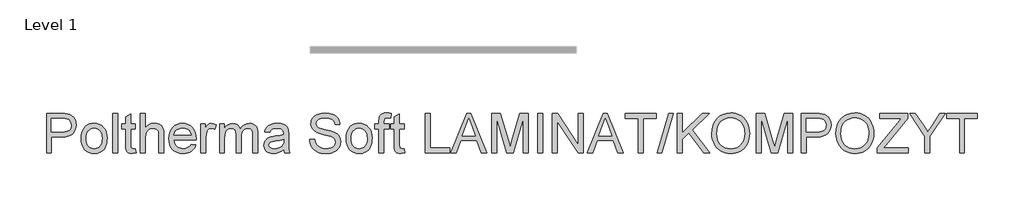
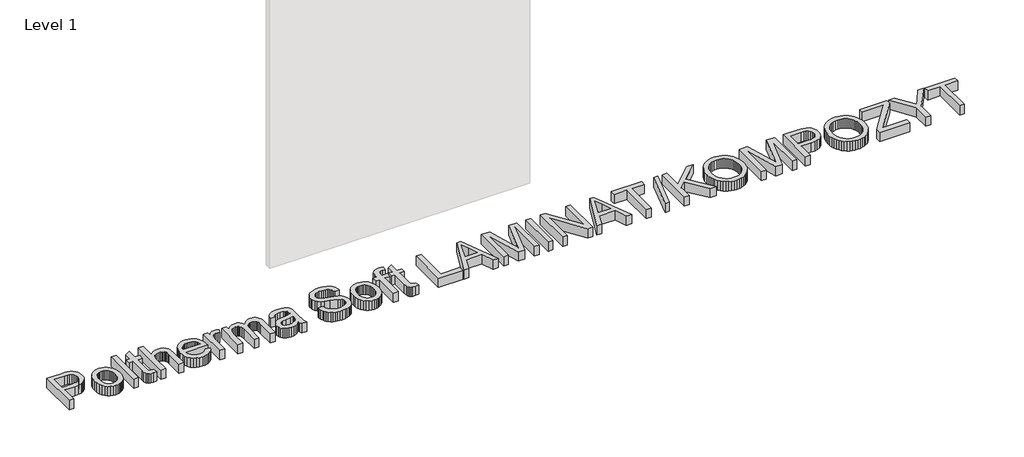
# One storey, part 5 of 27: 1 proxy.
"""IFC4 building model written with IfcOpenShell, lengths in millimetres."""

from ifc_helpers import new_model, si_unit, origin, origin_with_axes, place, context, project, spatial, polyline, outline, extrude, element, save

model = new_model("IFC4")

# Units and contexts
model_context = context("Model", 3, world=origin())
ifc_project = project(units=[si_unit("LENGTHUNIT", "METRE", prefix="MILLI")], contexts=[model_context])

# Site, building, storey
site = spatial("IfcSite", under=ifc_project)
building = spatial("IfcBuilding", under=site)
storey = spatial("IfcBuildingStorey", under=building, Name="Level 1", Elevation=0.0)

# Proxy
placement = place(None, origin())
element("IfcBuildingElementProxy", 1, Name="600mm Arial", ObjectType="600mm Arial", at=placement, inside=storey, context=model_context, shape_type="SweptSolid", body=[
    extrude(outline(polyline([(-16171.592324, -41042.952483), (-16171.592324, -40452.1832523), (-15952.6500163, -40452.1832523), (-15901.6644394, -40453.5895023), (-15864.3807856, -40457.8082523), (-15825.0238144, -40468.3190696), (-15792.6259779, -40485.4284446), (-15766.5382375, -40509.9116176), (-15746.1115548, -40542.5438292), (-15732.9144394, -40581.0354157), (-15728.5154009, -40623.0967138), (-15731.4856533, -40659.3617378), (-15740.3964106, -40692.7241176), (-15755.2476726, -40723.1838532), (-15776.0394394, -40750.7409446), (-15804.5836101, -40773.5834926), (-15842.6920836, -40789.8995984), (-15890.3648601, -40799.6892619), (-15947.6019394, -40802.952483), (-16097.7461702, -40802.952483), (-16097.7461702, -41042.952483), (-16171.592324, -41042.952483)]), holes=[polyline([(-16097.7461702, -40729.1063292), (-15943.2750163, -40729.1063292), (-15907.7581894, -40727.4116176), (-15877.7942471, -40722.327483), (-15853.3831894, -40713.8539253), (-15834.5250163, -40701.9909446), (-15820.4535019, -40687.0540455), (-15810.4024202, -40669.358733), (-15804.3717711, -40648.9050071), (-15802.3615548, -40625.6928676), (-15807.1031413, -40592.5197907), (-15821.3279009, -40564.5390215), (-15843.2690067, -40543.4813292), (-15871.1596317, -40531.077483), (-15899.6452086, -40527.2914253), (-15945.0057856, -40526.0294061), (-16097.7461702, -40526.0294061), (-16097.7461702, -40729.1063292)])]), origin_with_axes(), (0.0, 0.0, 1.0), 150.0),
    extrude(outline(polyline([(-15654.6692471, -40826.0294061), (-15650.6758577, -40769.8425071), (-15638.6956894, -40721.4260407), (-15618.7287423, -40680.7800071), (-15590.7750163, -40647.9044061), (-15562.6319875, -40626.8917859), (-15531.5682856, -40611.8827715), (-15497.5839106, -40602.8773628), (-15460.6788625, -40599.8755599), (-15419.9381774, -40603.5309085), (-15383.1007375, -40614.4969542), (-15350.1665428, -40632.773697), (-15321.1355932, -40658.3611369), (-15297.4411822, -40690.3938893), (-15280.5166029, -40728.0065696), (-15270.3618553, -40771.1991777), (-15266.9769394, -40819.9717138), (-15268.4733336, -40859.499959), (-15272.9625163, -40894.5750792), (-15280.4444875, -40925.1970744), (-15290.9192471, -40951.3659446), (-15304.256086, -40973.9696104), (-15320.3242952, -40993.8959926), (-15339.1238745, -41011.1450912), (-15360.654824, -41025.7169061), (-15384.0788024, -41037.2959325), (-15408.5574682, -41045.5666657), (-15434.0908216, -41050.5291056), (-15460.6788625, -41052.1832523), (-15502.0144995, -41048.5414253), (-15539.1944875, -41037.6159446), (-15572.2188264, -41019.4068099), (-15601.0875163, -40993.9140215), (-15624.5295235, -40961.5702715), (-15641.2738144, -40922.8082523), (-15651.3203889, -40877.6279638), (-15654.6692471, -40826.0294061)]), holes=[polyline([(-15580.8230932, -40825.8851753), (-15578.686675, -40861.7039854), (-15572.2774202, -40892.718108), (-15561.5953288, -40918.9275431), (-15546.6404009, -40940.3322907), (-15528.4492952, -40956.9593941), (-15508.0586702, -40968.8358965), (-15485.4685259, -40975.9617979), (-15460.6788625, -40978.3370984), (-15436.0154009, -40975.9482763), (-15413.5154009, -40968.7818099), (-15393.1788625, -40956.8376994), (-15375.0057856, -40940.1159446), (-15360.0508577, -40918.499358), (-15349.3687663, -40891.8707523), (-15342.9595115, -40860.2301273), (-15340.8230932, -40823.577483), (-15342.9730332, -40788.8944902), (-15349.4228529, -40758.6916657), (-15360.1725524, -40732.9690095), (-15375.2221317, -40711.7265215), (-15393.4628168, -40695.0994181), (-15413.7858336, -40683.2229157), (-15436.1911822, -40676.0970143), (-15460.6788625, -40673.7217138), (-15485.4685259, -40676.0879999), (-15508.0586702, -40683.186858), (-15528.4492952, -40695.0182883), (-15546.6404009, -40711.5822907), (-15561.5953288, -40732.9239374), (-15572.2774202, -40759.0883003), (-15578.686675, -40790.0753797), (-15580.8230932, -40825.8851753)])]), origin_with_axes(), (0.0, 0.0, 1.0), 150.0),
    extrude(outline(polyline([(-15183.9000163, -41042.952483), (-15183.9000163, -40452.1832523), (-15110.0538625, -40452.1832523), (-15110.0538625, -41042.952483), (-15183.9000163, -41042.952483)])), origin_with_axes(), (0.0, 0.0, 1.0), 150.0),
    extrude(outline(polyline([(-14842.3615548, -40981.3659446), (-14833.1307856, -41045.1159446), (-14888.3711702, -41052.1832523), (-14923.8158817, -41049.1183484), (-14950.2461702, -41039.9236369), (-14968.9240548, -41025.7529638), (-14981.1115548, -41007.7601753), (-14987.8182856, -40976.858733), (-14990.0538625, -40923.9620984), (-14990.0538625, -40682.952483), (-15045.4384779, -40682.952483), (-15045.4384779, -40609.1063292), (-14990.0538625, -40609.1063292), (-14990.0538625, -40503.6736369), (-14916.2077086, -40460.2601753), (-14916.2077086, -40609.1063292), (-14842.3615548, -40609.1063292), (-14842.3615548, -40682.952483), (-14916.2077086, -40682.952483), (-14916.2077086, -40921.7986369), (-14912.3134779, -40959.8755599), (-14899.6932856, -40973.3611369), (-14889.0382375, -40977.093108), (-14874.5250163, -40978.3370984), (-14842.3615548, -40981.3659446)])), origin_with_axes(), (0.0, 0.0, 1.0), 150.0),
    extrude(outline(polyline([(-14768.5154009, -41042.952483), (-14768.5154009, -40452.1832523), (-14694.6692471, -40452.1832523), (-14694.6692471, -40669.3947907), (-14667.5448481, -40638.9801273), (-14637.0851125, -40617.2553676), (-14603.2900404, -40604.2205119), (-14566.1596317, -40599.8755599), (-14521.5562663, -40604.6171465), (-14483.2269394, -40618.8419061), (-14453.0466509, -40641.4320503), (-14432.8904009, -40671.2697907), (-14421.5322279, -40712.2673869), (-14417.7461702, -40768.3370984), (-14417.7461702, -41042.952483), (-14491.592324, -41042.952483), (-14491.592324, -40775.9813292), (-14493.061675, -40751.0474349), (-14497.4697279, -40729.7553676), (-14504.8164827, -40712.1051273), (-14515.1019394, -40698.0967138), (-14528.0827086, -40687.4326513), (-14543.5154009, -40679.8154638), (-14561.4000163, -40675.2451513), (-14581.7365548, -40673.7217138), (-14612.9444875, -40677.8322907), (-14642.2413625, -40690.1640215), (-14666.5081894, -40709.5270023), (-14682.6259779, -40734.7313292), (-14691.6584298, -40768.2289253), (-14694.6692471, -40812.4717138), (-14694.6692471, -41042.952483), (-14768.5154009, -41042.952483)])), origin_with_axes(), (0.0, 0.0, 1.0), 150.0),
    extrude(outline(polyline([(-14012.4577086, -40913.7217138), (-13940.0538625, -40922.952483), (-13951.1551245, -40951.9518821), (-13966.1416029, -40977.5077715), (-13985.0132976, -40999.6201513), (-14007.7702086, -41018.2890215), (-14034.177961, -41033.1177474), (-14064.0021798, -41043.7096946), (-14097.2428649, -41050.0648628), (-14133.9000163, -41052.1832523), (-14179.7203288, -41048.5279037), (-14220.5466509, -41037.561858), (-14256.3789827, -41019.2851152), (-14287.217324, -40993.6976753), (-14312.0160019, -40961.5116777), (-14329.7293432, -40923.4392619), (-14340.3573481, -40879.4804277), (-14343.9000163, -40829.6351753), (-14340.3212904, -40778.0997186), (-14329.5851125, -40732.6760407), (-14311.6914827, -40693.3641417), (-14286.6404009, -40660.1640215), (-14255.8831894, -40633.7878196), (-14220.8711702, -40614.9476753), (-14181.6043432, -40603.6435888), (-14138.0827086, -40599.8755599), (-14095.9628168, -40603.6345744), (-14057.8723721, -40614.9116176), (-14023.8113745, -40633.7066898), (-13993.779824, -40660.0197907), (-13969.2651005, -40693.1477955), (-13951.7545836, -40732.3875792), (-13941.2482735, -40777.7391417), (-13937.7461702, -40829.202483), (-13938.1788625, -40849.1063292), (-14270.0538625, -40849.1063292), (-14265.7765187, -40878.5744782), (-14257.2714106, -40904.3827715), (-14244.538538, -40926.531209), (-14227.5779009, -40945.0197907), (-14207.3269995, -40959.5961128), (-14184.7233336, -40970.0077715), (-14159.7669033, -40976.2547667), (-14132.4577086, -40978.3370984), (-14093.154824, -40974.4789253), (-14060.0538625, -40962.9044061), (-14033.154824, -40942.8923869), (-14012.4577086, -40913.7217138)]), holes=[polyline([(-14270.0538625, -40775.2601753), (-14011.592324, -40775.2601753), (-14021.5803048, -40736.2457523), (-14030.17105, -40720.9032042), (-14041.1596317, -40708.3370984), (-14061.2978529, -40693.1928676), (-14084.2125163, -40682.3755599), (-14109.9036221, -40675.8851753), (-14138.3711702, -40673.7217138), (-14164.3372158, -40675.4479758), (-14188.1488144, -40680.6267619), (-14209.8059658, -40689.258072), (-14229.3086702, -40701.3419061), (-14245.6743553, -40716.31937), (-14257.920449, -40733.6315696), (-14266.0469514, -40753.2785047), (-14270.0538625, -40775.2601753)])]), origin_with_axes(), (0.0, 0.0, 1.0), 150.0),
    extrude(outline(polyline([(-13863.9000163, -41042.952483), (-13863.9000163, -40609.1063292), (-13799.2846317, -40609.1063292), (-13799.2846317, -40673.2890215), (-13775.4144394, -40636.077483), (-13753.4192471, -40614.1544061), (-13731.3519394, -40603.4452715), (-13707.2654009, -40599.8755599), (-13670.4865548, -40605.5726753), (-13633.1307856, -40622.6640215), (-13657.7942471, -40688.8659446), (-13683.7557856, -40677.5077715), (-13709.717324, -40673.7217138), (-13731.7666029, -40677.3635407), (-13751.4721317, -40688.2890215), (-13767.3916029, -40705.6688292), (-13778.0827086, -40728.6736369), (-13787.061074, -40769.9236369), (-13790.0538625, -40814.9236369), (-13790.0538625, -41042.952483), (-13863.9000163, -41042.952483)])), origin_with_axes(), (0.0, 0.0, 1.0), 150.0),
    extrude(outline(polyline([(-13586.9769394, -41042.952483), (-13586.9769394, -40609.1063292), (-13513.1307856, -40609.1063292), (-13513.1307856, -40680.5005599), (-13490.9192471, -40647.7060888), (-13462.3615548, -40622.014983), (-13428.4312663, -40605.4104157), (-13390.1019394, -40599.8755599), (-13349.0322279, -40605.5185888), (-13331.5532615, -40612.5723749), (-13316.1115548, -40622.4476753), (-13291.5202086, -40649.5450311), (-13275.4384779, -40685.6928676), (-13248.5214106, -40648.1477955), (-13217.8182856, -40621.3298869), (-13183.3291029, -40605.2391417), (-13145.0538625, -40599.8755599), (-13115.491062, -40602.1066297), (-13089.5430452, -40608.7998388), (-13067.209812, -40619.9551874), (-13048.4913625, -40635.5726753), (-13033.694187, -40655.8325912), (-13023.1247759, -40680.9152234), (-13016.7831293, -40710.820572), (-13014.6692471, -40745.5486369), (-13014.6692471, -41042.952483), (-13088.5154009, -41042.952483), (-13088.5154009, -40777.2794061), (-13090.2281413, -40740.4464734), (-13095.3663625, -40715.6207523), (-13104.9937663, -40698.6195503), (-13120.1740548, -40685.2601753), (-13139.6992952, -40676.6063292), (-13162.3615548, -40673.7217138), (-13183.288538, -40675.5696705), (-13202.3675644, -40681.1135407), (-13219.5986341, -40690.3533244), (-13234.9817471, -40703.2890215), (-13247.6334899, -40720.2992378), (-13256.670449, -40741.7625792), (-13262.0926245, -40767.6790455), (-13263.9000163, -40798.0486369), (-13263.9000163, -41042.952483), (-13337.7461702, -41042.952483), (-13337.7461702, -40769.0582523), (-13342.0190067, -40727.3034446), (-13354.8375163, -40697.5197907), (-13364.7488745, -40687.1081321), (-13377.3916029, -40679.671233), (-13392.7657014, -40675.2090936), (-13410.8711702, -40673.7217138), (-13439.3206894, -40677.6880599), (-13465.5346317, -40689.5870984), (-13487.1692471, -40709.1303676), (-13501.8807856, -40736.0294061), (-13510.3182856, -40773.3491176), (-13513.1307856, -40824.1544061), (-13513.1307856, -41042.952483), (-13586.9769394, -41042.952483)])), origin_with_axes(), (0.0, 0.0, 1.0), 150.0),
    extrude(outline(polyline([(-12626.9769394, -40987.5678676), (-12662.2593913, -41017.8202715), (-12698.5875163, -41037.6159446), (-12736.7906413, -41048.5414253), (-12777.6980932, -41052.1832523), (-12810.5782014, -41049.9927474), (-12839.4108336, -41043.421233), (-12864.1959899, -41032.468709), (-12884.9336702, -41017.1351753), (-12901.3083697, -40998.3941898), (-12913.0045836, -40977.2193099), (-12920.022312, -40953.6105359), (-12922.3615548, -40927.5678676), (-12918.8279009, -40896.9548869), (-12908.2269394, -40869.1544061), (-12891.8747759, -40845.3563292), (-12871.0875163, -40826.7505599), (-12846.6584298, -40812.6880599), (-12819.3807856, -40802.5197907), (-12755.4865548, -40791.4140215), (-12679.9817471, -40779.7313292), (-12627.4096317, -40766.0294061), (-12626.9769394, -40749.5870984), (-12632.061074, -40716.6303676), (-12638.4162423, -40704.4248388), (-12647.3134779, -40695.0678676), (-12662.6920836, -40685.7289253), (-12681.4240548, -40679.0582523), (-12728.9480932, -40673.7217138), (-12772.9384779, -40677.2733965), (-12803.6596317, -40687.9284446), (-12824.6091509, -40707.6339734), (-12839.2846317, -40738.3370984), (-12913.1307856, -40729.1063292), (-12900.3122759, -40688.7217138), (-12881.1836702, -40656.9909446), (-12853.9601125, -40632.7241176), (-12816.8567471, -40614.7313292), (-12771.4781413, -40603.5895023), (-12719.4288625, -40599.8755599), (-12669.5069875, -40603.1568099), (-12629.9336702, -40613.0005599), (-12600.0959298, -40627.8022426), (-12579.3807856, -40645.9572907), (-12565.6428048, -40668.4032042), (-12556.7365548, -40696.077483), (-12553.1307856, -40760.6928676), (-12553.1307856, -40852.5678676), (-12549.3807856, -40980.8611369), (-12543.8279009, -41012.5738773), (-12534.6692471, -41042.952483), (-12608.5154009, -41042.952483), (-12620.342324, -41017.2794061), (-12626.9769394, -40987.5678676)]), holes=[polyline([(-12626.9769394, -40839.8755599), (-12676.592324, -40852.171233), (-12746.1115548, -40862.5197907), (-12809.6452086, -40874.4909446), (-12826.1776606, -40882.6760407), (-12838.4192471, -40893.9620984), (-12845.9913625, -40907.483733), (-12848.5154009, -40922.3755599), (-12843.0166029, -40944.3346946), (-12826.5202086, -40962.327483), (-12799.3867952, -40974.3346946), (-12761.9769394, -40978.3370984), (-12722.3134779, -40973.9200311), (-12687.2654009, -40960.6688292), (-12658.8519394, -40941.1435888), (-12639.092324, -40917.9044061), (-12630.3303048, -40893.9620984), (-12627.4096317, -40860.7890215), (-12626.9769394, -40839.8755599)])]), origin_with_axes(), (0.0, 0.0, 1.0), 150.0),
    extrude(outline(polyline([(-12239.2846317, -40839.8755599), (-12165.4384779, -40839.8755599), (-12156.9649202, -40880.8551273), (-12141.6404009, -40913.7938292), (-12117.7341509, -40939.9356561), (-12083.5154009, -40960.5245984), (-12041.6884779, -40973.8839734), (-11994.9577086, -40978.3370984), (-11953.8158817, -40974.9657042), (-11917.7942471, -40964.8515215), (-11888.6055452, -40948.8419061), (-11867.9625163, -40927.7842138), (-11855.6848721, -40903.6075311), (-11851.592324, -40878.2409446), (-11854.6572279, -40853.5233965), (-11863.8519394, -40832.1592138), (-11882.529824, -40813.9320503), (-11914.0442471, -40798.6255599), (-12021.5682856, -40770.4284446), (-12092.1512182, -40751.7685888), (-12137.3134779, -40734.0101753), (-12174.0742952, -40709.1664253), (-12200.1259779, -40679.0582523), (-12215.6488144, -40644.3346946), (-12220.8230932, -40605.6447907), (-12219.2230332, -40583.6541056), (-12214.4228529, -40562.3935888), (-12206.4225524, -40541.8632402), (-12195.2221317, -40522.0630599), (-12180.9477928, -40503.7998388), (-12163.7257375, -40487.8803676), (-12143.5559658, -40474.3046465), (-12120.4384779, -40463.0726753), (-12068.4793432, -40447.9825311), (-12010.967324, -40442.952483), (-11948.6596317, -40448.2169061), (-11894.1404009, -40464.0101753), (-11870.2882375, -40475.7739974), (-11849.3567471, -40490.0077715), (-11831.3459298, -40506.7114974), (-11816.2557856, -40525.8851753), (-11804.2035019, -40546.9699109), (-11795.3062663, -40569.4068099), (-11789.5640788, -40593.1958724), (-11786.9769394, -40618.3370984), (-11860.8230932, -40618.3370984), (-11865.7629971, -40594.7733965), (-11874.3807856, -40574.2745984), (-11886.6764586, -40556.8407042), (-11902.6500163, -40542.4717138), (-11922.5989346, -40531.2397426), (-11946.8206894, -40523.2169061), (-11975.3152807, -40518.4032042), (-12008.0827086, -40516.7986369), (-12041.8958096, -40518.3851753), (-12070.7870356, -40523.1447907), (-12094.7563865, -40531.077483), (-12113.8038625, -40542.1832523), (-12128.3170836, -40555.5336128), (-12138.6836702, -40570.2000792), (-12144.9036221, -40586.1826513), (-12146.9769394, -40603.4813292), (-12141.0995356, -40631.858733), (-12123.467324, -40654.6832523), (-12107.2774202, -40664.8334926), (-12081.7846317, -40675.0919061), (-12002.8904009, -40695.9332523), (-11921.4721317, -40715.7289253), (-11872.217324, -40733.0005599), (-11830.1199682, -40759.7914253), (-11813.8444274, -40775.5396224), (-11800.7509779, -40792.8563292), (-11790.6863745, -40811.6514013), (-11783.4973721, -40831.8346946), (-11777.7461702, -40876.3659446), (-11779.4003168, -40899.4654037), (-11784.3627567, -40921.8887811), (-11792.6334899, -40943.6360768), (-11804.2125163, -40964.7072907), (-11818.8970115, -40984.2866176), (-11836.4841509, -41001.5582523), (-11856.9739346, -41016.5221946), (-11880.3663625, -41029.1784446), (-11905.9808457, -41039.2430479), (-11933.1367952, -41046.4320503), (-11992.0730932, -41052.1832523), (-12029.8480332, -41050.6327715), (-12064.4228529, -41045.9813292), (-12095.7975524, -41038.2289253), (-12123.9721317, -41027.3755599), (-12149.1178649, -41013.4032042), (-12171.4060259, -40996.2938292), (-12190.8366149, -40976.0474349), (-12207.4096317, -40952.6640215), (-12220.7599923, -40926.9008003), (-12230.5226125, -40899.514983), (-12236.6974923, -40870.5065696), (-12239.2846317, -40839.8755599)])), origin_with_axes(), (0.0, 0.0, 1.0), 150.0),
    extrude(outline(polyline([(-11694.6692471, -40826.0294061), (-11690.6758577, -40769.8425071), (-11678.6956894, -40721.4260407), (-11658.7287423, -40680.7800071), (-11630.7750163, -40647.9044061), (-11602.6319875, -40626.8917859), (-11571.5682856, -40611.8827715), (-11537.5839106, -40602.8773628), (-11500.6788625, -40599.8755599), (-11459.9381774, -40603.5309085), (-11423.1007375, -40614.4969542), (-11390.1665428, -40632.773697), (-11361.1355932, -40658.3611369), (-11337.4411822, -40690.3938893), (-11320.5166029, -40728.0065696), (-11310.3618553, -40771.1991777), (-11306.9769394, -40819.9717138), (-11308.4733336, -40859.499959), (-11312.9625163, -40894.5750792), (-11320.4444875, -40925.1970744), (-11330.9192471, -40951.3659446), (-11344.256086, -40973.9696104), (-11360.3242952, -40993.8959926), (-11379.1238745, -41011.1450912), (-11400.654824, -41025.7169061), (-11424.0788024, -41037.2959325), (-11448.5574682, -41045.5666657), (-11474.0908216, -41050.5291056), (-11500.6788625, -41052.1832523), (-11542.0144995, -41048.5414253), (-11579.1944875, -41037.6159446), (-11612.2188264, -41019.4068099), (-11641.0875163, -40993.9140215), (-11664.5295235, -40961.5702715), (-11681.2738144, -40922.8082523), (-11691.3203889, -40877.6279638), (-11694.6692471, -40826.0294061)]), holes=[polyline([(-11620.8230932, -40825.8851753), (-11618.686675, -40861.7039854), (-11612.2774202, -40892.718108), (-11601.5953288, -40918.9275431), (-11586.6404009, -40940.3322907), (-11568.4492952, -40956.9593941), (-11548.0586702, -40968.8358965), (-11525.4685259, -40975.9617979), (-11500.6788625, -40978.3370984), (-11476.0154009, -40975.9482763), (-11453.5154009, -40968.7818099), (-11433.1788625, -40956.8376994), (-11415.0057856, -40940.1159446), (-11400.0508577, -40918.499358), (-11389.3687663, -40891.8707523), (-11382.9595115, -40860.2301273), (-11380.8230932, -40823.577483), (-11382.9730332, -40788.8944902), (-11389.4228529, -40758.6916657), (-11400.1725524, -40732.9690095), (-11415.2221317, -40711.7265215), (-11433.4628168, -40695.0994181), (-11453.7858336, -40683.2229157), (-11476.1911822, -40676.0970143), (-11500.6788625, -40673.7217138), (-11525.4685259, -40676.0879999), (-11548.0586702, -40683.186858), (-11568.4492952, -40695.0182883), (-11586.6404009, -40711.5822907), (-11601.5953288, -40732.9239374), (-11612.2774202, -40759.0883003), (-11618.686675, -40790.0753797), (-11620.8230932, -40825.8851753)])]), origin_with_axes(), (0.0, 0.0, 1.0), 150.0),
    extrude(outline(polyline([(-11205.4384779, -41042.952483), (-11205.4384779, -40682.952483), (-11270.0538625, -40682.952483), (-11270.0538625, -40609.1063292), (-11205.4384779, -40609.1063292), (-11205.4384779, -40565.4044061), (-11203.4913625, -40529.2385407), (-11197.6500163, -40503.8178676), (-11182.7942471, -40479.2625792), (-11159.8615548, -40459.827483), (-11127.7702086, -40447.171233), (-11085.4384779, -40442.952483), (-11053.3831894, -40444.9717138), (-11018.0827086, -40451.0294061), (-11028.9000163, -40520.2601753), (-11071.4480932, -40516.7986369), (-11099.5190067, -40519.8635407), (-11117.9625163, -40529.0582523), (-11128.1848721, -40546.6183484), (-11131.592324, -40574.7794061), (-11131.592324, -40609.1063292), (-11048.5154009, -40609.1063292), (-11048.5154009, -40682.952483), (-11131.592324, -40682.952483), (-11131.592324, -41042.952483), (-11205.4384779, -41042.952483)])), origin_with_axes(), (0.0, 0.0, 1.0), 150.0),
    extrude(outline(polyline([(-10826.9769394, -40981.3659446), (-10817.7461702, -41045.1159446), (-10872.9865548, -41052.1832523), (-10908.4312663, -41049.1183484), (-10934.8615548, -41039.9236369), (-10953.5394394, -41025.7529638), (-10965.7269394, -41007.7601753), (-10972.4336702, -40976.858733), (-10974.6692471, -40923.9620984), (-10974.6692471, -40682.952483), (-11030.0538625, -40682.952483), (-11030.0538625, -40609.1063292), (-10974.6692471, -40609.1063292), (-10974.6692471, -40503.6736369), (-10900.8230932, -40460.2601753), (-10900.8230932, -40609.1063292), (-10826.9769394, -40609.1063292), (-10826.9769394, -40682.952483), (-10900.8230932, -40682.952483), (-10900.8230932, -40921.7986369), (-10896.9288625, -40959.8755599), (-10884.3086702, -40973.3611369), (-10873.6536221, -40977.093108), (-10859.1404009, -40978.3370984), (-10826.9769394, -40981.3659446)])), origin_with_axes(), (0.0, 0.0, 1.0), 150.0),
    extrude(outline(polyline([(-10513.1307856, -41042.952483), (-10513.1307856, -40452.1832523), (-10439.2846317, -40452.1832523), (-10439.2846317, -40969.1063292), (-10143.9000163, -40969.1063292), (-10143.9000163, -41042.952483), (-10513.1307856, -41042.952483)])), origin_with_axes(), (0.0, 0.0, 1.0), 150.0),
    extrude(outline(polyline([(-10129.6211702, -41042.952483), (-9893.8038625, -40452.1832523), (-9830.9192471, -40452.1832523), (-9595.1019394, -41042.952483), (-9673.1307856, -41042.952483), (-9740.7750163, -40858.3370984), (-9984.092324, -40858.3370984), (-10051.592324, -41042.952483), (-10129.6211702, -41042.952483)]), holes=[polyline([(-9956.9769394, -40784.4909446), (-9767.7461702, -40784.4909446), (-9820.967324, -40639.2505599), (-9862.3615548, -40526.0294061), (-9899.1404009, -40626.5582523), (-9956.9769394, -40784.4909446)])]), origin_with_axes(), (0.0, 0.0, 1.0), 150.0),
    extrude(outline(polyline([(-9516.2077086, -41042.952483), (-9516.2077086, -40452.1832523), (-9389.1404009, -40452.1832523), (-9268.2750163, -40868.577483), (-9243.9000163, -40955.5486369), (-9217.5057856, -40861.3659446), (-9098.6596317, -40452.1832523), (-8971.592324, -40452.1832523), (-8971.592324, -41042.952483), (-9045.4384779, -41042.952483), (-9045.4384779, -40526.0294061), (-9193.8519394, -41042.952483), (-9293.9480932, -41042.952483), (-9442.3615548, -40526.0294061), (-9442.3615548, -41042.952483), (-9516.2077086, -41042.952483)])), origin_with_axes(), (0.0, 0.0, 1.0), 150.0),
    extrude(outline(polyline([(-8833.1307856, -41042.952483), (-8833.1307856, -40452.1832523), (-8759.2846317, -40452.1832523), (-8759.2846317, -41042.952483), (-8833.1307856, -41042.952483)])), origin_with_axes(), (0.0, 0.0, 1.0), 150.0),
    extrude(outline(polyline([(-8611.592324, -41042.952483), (-8611.592324, -40452.1832523), (-8532.5538625, -40452.1832523), (-8223.9000163, -40920.2120984), (-8223.9000163, -40452.1832523), (-8150.0538625, -40452.1832523), (-8150.0538625, -41042.952483), (-8229.092324, -41042.952483), (-8537.7461702, -40574.7794061), (-8537.7461702, -41042.952483), (-8611.592324, -41042.952483)])), origin_with_axes(), (0.0, 0.0, 1.0), 150.0),
    extrude(outline(polyline([(-8089.6211702, -41042.952483), (-7853.8038625, -40452.1832523), (-7790.9192471, -40452.1832523), (-7555.1019394, -41042.952483), (-7633.1307856, -41042.952483), (-7700.7750163, -40858.3370984), (-7944.092324, -40858.3370984), (-8011.592324, -41042.952483), (-8089.6211702, -41042.952483)]), holes=[polyline([(-7916.9769394, -40784.4909446), (-7727.7461702, -40784.4909446), (-7780.967324, -40639.2505599), (-7822.3615548, -40526.0294061), (-7859.1404009, -40626.5582523), (-7916.9769394, -40784.4909446)])]), origin_with_axes(), (0.0, 0.0, 1.0), 150.0),
    extrude(outline(polyline([(-7328.5154009, -41042.952483), (-7328.5154009, -40526.0294061), (-7522.3615548, -40526.0294061), (-7522.3615548, -40452.1832523), (-7060.8230932, -40452.1832523), (-7060.8230932, -40526.0294061), (-7254.6692471, -40526.0294061), (-7254.6692471, -41042.952483), (-7328.5154009, -41042.952483)])), origin_with_axes(), (0.0, 0.0, 1.0), 150.0),
    extrude(outline(polyline([(-7042.3615548, -41042.952483), (-6876.2077086, -40452.1832523), (-6809.5730932, -40452.1832523), (-6975.7269394, -41042.952483), (-7042.3615548, -41042.952483)])), origin_with_axes(), (0.0, 0.0, 1.0), 150.0),
    extrude(outline(polyline([(-6746.9769394, -41042.952483), (-6746.9769394, -40452.1832523), (-6673.1307856, -40452.1832523), (-6673.1307856, -40741.3659446), (-6370.2461702, -40452.1832523), (-6266.9769394, -40452.1832523), (-6521.2557856, -40695.0678676), (-6257.7461702, -41042.952483), (-6348.0346317, -41042.952483), (-6573.6115548, -40744.9717138), (-6673.1307856, -40839.8755599), (-6673.1307856, -41042.952483), (-6746.9769394, -41042.952483)])), origin_with_axes(), (0.0, 0.0, 1.0), 150.0),
    extrude(outline(polyline([(-6230.0538625, -40755.3563292), (-6225.1319875, -40686.062459), (-6210.3663625, -40624.7193099), (-6185.7569875, -40571.3268821), (-6151.3038625, -40525.8851753), (-6109.0712904, -40489.6021224), (-6061.123574, -40463.6856561), (-6007.4607134, -40448.1357763), (-5948.0827086, -40442.952483), (-5908.3381173, -40445.3863773), (-5870.5947279, -40452.6880599), (-5834.8525404, -40464.8575311), (-5801.1115548, -40481.8947907), (-5770.3182856, -40503.2860167), (-5743.4192471, -40528.5173869), (-5720.4144394, -40557.5889013), (-5701.3038625, -40590.5005599), (-5686.2858336, -40626.5041657), (-5675.5586702, -40664.8515215), (-5669.1223721, -40705.5426273), (-5666.9769394, -40748.577483), (-5669.2350524, -40792.1802474), (-5676.0093913, -40833.421233), (-5687.2999562, -40872.3004398), (-5703.1067471, -40908.8178676), (-5723.0556654, -40942.0089734), (-5746.7726125, -40970.9092138), (-5774.2575884, -40995.5185888), (-5805.5105932, -41015.8370984), (-5839.3011582, -41031.7385407), (-5874.3988144, -41043.0967138), (-5910.803562, -41049.9116176), (-5948.5154009, -41052.1832523), (-5988.9541029, -41049.6727354), (-6027.1932856, -41042.1411849), (-6063.232949, -41029.5886008), (-6097.0730932, -41012.014983), (-6127.8303048, -40990.1009205), (-6154.6211702, -40964.5270023), (-6177.4456894, -40935.2932282), (-6196.3038625, -40902.3995984), (-6211.0694875, -40867.1667258), (-6221.6163625, -40830.9152234), (-6227.9444875, -40793.6450912), (-6230.0538625, -40755.3563292)]), holes=[polyline([(-6156.2077086, -40756.077483), (-6152.5163024, -40805.0348148), (-6141.4420836, -40848.4933484), (-6122.9850524, -40886.453084), (-6097.1452086, -40918.9140215), (-6065.7344514, -40944.9116176), (-6030.5646798, -40963.4813292), (-5991.6358937, -40974.6231561), (-5948.9480932, -40978.3370984), (-5905.5301245, -40974.5870984), (-5866.1416029, -40963.3370984), (-5830.7825283, -40944.5870984), (-5799.4529009, -40918.3370984), (-5773.8023601, -40885.1910648), (-5755.4805452, -40845.7529638), (-5744.4874562, -40800.0227955), (-5740.8230932, -40748.0005599), (-5742.3916029, -40714.2054878), (-5747.0971317, -40682.6279638), (-5754.9396798, -40653.2679878), (-5765.9192471, -40626.1255599), (-5779.9141389, -40601.5567499), (-5796.8026606, -40579.9176273), (-5816.584812, -40561.2081922), (-5839.2605932, -40545.4284446), (-5864.1268793, -40532.9029037), (-5890.4805452, -40523.9560888), (-5918.3215908, -40518.5879999), (-5947.6500163, -40516.7986369), (-5988.8549442, -40520.2466537), (-6027.0851125, -40530.5907042), (-6062.3405211, -40547.8307883), (-6094.6211702, -40571.9669061), (-6121.5652807, -40604.1619181), (-6140.811074, -40645.5786849), (-6152.35855, -40696.2172066), (-6156.2077086, -40756.077483)])]), origin_with_axes(), (0.0, 0.0, 1.0), 150.0),
    extrude(outline(polyline([(-5565.4384779, -41042.952483), (-5565.4384779, -40452.1832523), (-5438.3711702, -40452.1832523), (-5317.5057856, -40868.577483), (-5293.1307856, -40955.5486369), (-5266.7365548, -40861.3659446), (-5147.8904009, -40452.1832523), (-5020.8230932, -40452.1832523), (-5020.8230932, -41042.952483), (-5094.6692471, -41042.952483), (-5094.6692471, -40526.0294061), (-5243.0827086, -41042.952483), (-5343.1788625, -41042.952483), (-5491.592324, -40526.0294061), (-5491.592324, -41042.952483), (-5565.4384779, -41042.952483)])), origin_with_axes(), (0.0, 0.0, 1.0), 150.0),
    extrude(outline(polyline([(-4891.592324, -41042.952483), (-4891.592324, -40452.1832523), (-4672.6500163, -40452.1832523), (-4621.6644394, -40453.5895023), (-4584.3807856, -40457.8082523), (-4545.0238144, -40468.3190696), (-4512.6259779, -40485.4284446), (-4486.5382375, -40509.9116176), (-4466.1115548, -40542.5438292), (-4452.9144394, -40581.0354157), (-4448.5154009, -40623.0967138), (-4451.4856533, -40659.3617378), (-4460.3964106, -40692.7241176), (-4475.2476726, -40723.1838532), (-4496.0394394, -40750.7409446), (-4524.5836101, -40773.5834926), (-4562.6920836, -40789.8995984), (-4610.3648601, -40799.6892619), (-4667.6019394, -40802.952483), (-4817.7461702, -40802.952483), (-4817.7461702, -41042.952483), (-4891.592324, -41042.952483)]), holes=[polyline([(-4817.7461702, -40729.1063292), (-4663.2750163, -40729.1063292), (-4627.7581894, -40727.4116176), (-4597.7942471, -40722.327483), (-4573.3831894, -40713.8539253), (-4554.5250163, -40701.9909446), (-4540.4535019, -40687.0540455), (-4530.4024202, -40669.358733), (-4524.3717711, -40648.9050071), (-4522.3615548, -40625.6928676), (-4527.1031413, -40592.5197907), (-4541.3279009, -40564.5390215), (-4563.2690067, -40543.4813292), (-4591.1596317, -40531.077483), (-4619.6452086, -40527.2914253), (-4665.0057856, -40526.0294061), (-4817.7461702, -40526.0294061), (-4817.7461702, -40729.1063292)])]), origin_with_axes(), (0.0, 0.0, 1.0), 150.0),
    extrude(outline(polyline([(-4374.6692471, -40755.3563292), (-4369.7473721, -40686.062459), (-4354.9817471, -40624.7193099), (-4330.3723721, -40571.3268821), (-4295.9192471, -40525.8851753), (-4253.686675, -40489.6021224), (-4205.7389586, -40463.6856561), (-4152.0760981, -40448.1357763), (-4092.6980932, -40442.952483), (-4052.9535019, -40445.3863773), (-4015.2101125, -40452.6880599), (-3979.467925, -40464.8575311), (-3945.7269394, -40481.8947907), (-3914.9336702, -40503.2860167), (-3888.0346317, -40528.5173869), (-3865.029824, -40557.5889013), (-3845.9192471, -40590.5005599), (-3830.9012182, -40626.5041657), (-3820.1740548, -40664.8515215), (-3813.7377567, -40705.5426273), (-3811.592324, -40748.577483), (-3813.850437, -40792.1802474), (-3820.6247759, -40833.421233), (-3831.9153408, -40872.3004398), (-3847.7221317, -40908.8178676), (-3867.67105, -40942.0089734), (-3891.3879971, -40970.9092138), (-3918.8729731, -40995.5185888), (-3950.1259779, -41015.8370984), (-3983.9165428, -41031.7385407), (-4019.014199, -41043.0967138), (-4055.4189466, -41049.9116176), (-4093.1307856, -41052.1832523), (-4133.5694875, -41049.6727354), (-4171.8086702, -41042.1411849), (-4207.8483336, -41029.5886008), (-4241.6884779, -41012.014983), (-4272.4456894, -40990.1009205), (-4299.2365548, -40964.5270023), (-4322.061074, -40935.2932282), (-4340.9192471, -40902.3995984), (-4355.6848721, -40867.1667258), (-4366.2317471, -40830.9152234), (-4372.5598721, -40793.6450912), (-4374.6692471, -40755.3563292)]), holes=[polyline([(-4300.8230932, -40756.077483), (-4297.131687, -40805.0348148), (-4286.0574682, -40848.4933484), (-4267.600437, -40886.453084), (-4241.7605932, -40918.9140215), (-4210.349836, -40944.9116176), (-4175.1800644, -40963.4813292), (-4136.2512783, -40974.6231561), (-4093.5634779, -40978.3370984), (-4050.1455091, -40974.5870984), (-4010.7569875, -40963.3370984), (-3975.397913, -40944.5870984), (-3944.0682856, -40918.3370984), (-3918.4177447, -40885.1910648), (-3900.0959298, -40845.7529638), (-3889.1028408, -40800.0227955), (-3885.4384779, -40748.0005599), (-3887.0069875, -40714.2054878), (-3891.7125163, -40682.6279638), (-3899.5550644, -40653.2679878), (-3910.5346317, -40626.1255599), (-3924.5295235, -40601.5567499), (-3941.4180452, -40579.9176273), (-3961.2001966, -40561.2081922), (-3983.8759779, -40545.4284446), (-4008.7422639, -40532.9029037), (-4035.0959298, -40523.9560888), (-4062.9369755, -40518.5879999), (-4092.2654009, -40516.7986369), (-4133.4703288, -40520.2466537), (-4171.7004971, -40530.5907042), (-4206.9559057, -40547.8307883), (-4239.2365548, -40571.9669061), (-4266.1806654, -40604.1619181), (-4285.4264586, -40645.5786849), (-4296.9739346, -40696.2172066), (-4300.8230932, -40756.077483)])]), origin_with_axes(), (0.0, 0.0, 1.0), 150.0),
    extrude(outline(polyline([(-3756.2077086, -41042.952483), (-3756.2077086, -40966.3659446), (-3454.0442471, -40596.4140215), (-3396.6404009, -40526.0294061), (-3719.2846317, -40526.0294061), (-3719.2846317, -40452.1832523), (-3303.9000163, -40452.1832523), (-3303.9000163, -40526.0294061), (-3634.6211702, -40930.8851753), (-3665.7750163, -40969.1063292), (-3294.6692471, -40969.1063292), (-3294.6692471, -41042.952483), (-3756.2077086, -41042.952483)])), origin_with_axes(), (0.0, 0.0, 1.0), 150.0),
    extrude(outline(polyline([(-3045.4384779, -41042.952483), (-3045.4384779, -40792.7120984), (-3276.2077086, -40452.1832523), (-3189.092324, -40452.1832523), (-3065.9192471, -40634.0582523), (-3002.8904009, -40726.7986369), (-2939.717324, -40627.4236369), (-2827.9384779, -40452.1832523), (-2740.8230932, -40452.1832523), (-2971.592324, -40792.7120984), (-2971.592324, -41042.952483), (-3045.4384779, -41042.952483)])), origin_with_axes(), (0.0, 0.0, 1.0), 150.0),
    extrude(outline(polyline([(-2528.5154009, -41042.952483), (-2528.5154009, -40526.0294061), (-2722.3615548, -40526.0294061), (-2722.3615548, -40452.1832523), (-2260.8230932, -40452.1832523), (-2260.8230932, -40526.0294061), (-2454.6692471, -40526.0294061), (-2454.6692471, -41042.952483), (-2528.5154009, -41042.952483)])), origin_with_axes(), (0.0, 0.0, 1.0), 150.0),
])

save(model, "model.ifc")
